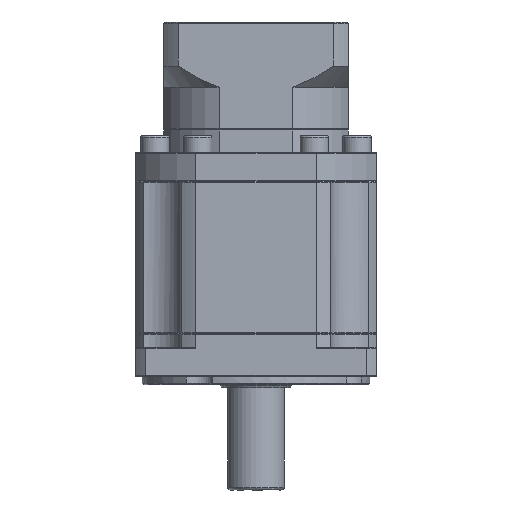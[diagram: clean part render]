
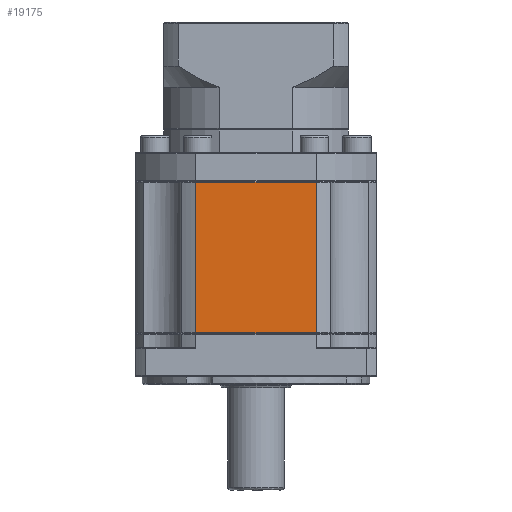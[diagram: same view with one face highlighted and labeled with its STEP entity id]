
A CAD part, front view. The second image highlights one B-rep face of the part: STEP entity #19175.
In plain terms, the highlighted planar face has unit normal (0, -1, 0).
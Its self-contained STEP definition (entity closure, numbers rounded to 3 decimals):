
#2729 = DIRECTION ( 'NONE',  ( 0., 0., -1. ) ) ;
#8693 = PLANE ( 'NONE',  #101699 ) ;
#13237 = EDGE_CURVE ( 'NONE', #20696, #75893, #125464, .T. ) ;
#14287 = VECTOR ( 'NONE', #98327, 1000. ) ;
#19175 = ADVANCED_FACE ( 'NONE', ( #42825 ), #8693, .F. ) ;
#20696 = VERTEX_POINT ( 'NONE', #47062 ) ;
#22767 = CARTESIAN_POINT ( 'NONE',  ( -83.567, 5.655, -46.318 ) ) ;
#26292 = CARTESIAN_POINT ( 'NONE',  ( -41.14, 5.655, -99.568 ) ) ;
#30490 = EDGE_LOOP ( 'NONE', ( #31125, #56909, #53427, #99165 ) ) ;
#31125 = ORIENTED_EDGE ( 'NONE', *, *, #58156, .F. ) ;
#34167 = VECTOR ( 'NONE', #43341, 1000. ) ;
#34898 = VERTEX_POINT ( 'NONE', #37187 ) ;
#37187 = CARTESIAN_POINT ( 'NONE',  ( -41.14, 5.655, -46.568 ) ) ;
#39929 = LINE ( 'NONE', #26292, #14287 ) ;
#42825 = FACE_OUTER_BOUND ( 'NONE', #30490, .T. ) ;
#43341 = DIRECTION ( 'NONE',  ( 0., 0., 1. ) ) ;
#43754 = CARTESIAN_POINT ( 'NONE',  ( -41.14, 5.655, -99.568 ) ) ;
#47062 = CARTESIAN_POINT ( 'NONE',  ( -83.567, 5.655, -99.568 ) ) ;
#49453 = CARTESIAN_POINT ( 'NONE',  ( -41.14, 5.655, -46.318 ) ) ;
#50766 = DIRECTION ( 'NONE',  ( 0., 0., 1. ) ) ;
#53427 = ORIENTED_EDGE ( 'NONE', *, *, #61749, .F. ) ;
#56909 = ORIENTED_EDGE ( 'NONE', *, *, #75925, .F. ) ;
#58156 = EDGE_CURVE ( 'NONE', #82331, #20696, #39929, .T. ) ;
#61239 = DIRECTION ( 'NONE',  ( 1., 0., 0. ) ) ;
#61749 = EDGE_CURVE ( 'NONE', #75893, #34898, #74247, .T. ) ;
#72829 = CARTESIAN_POINT ( 'NONE',  ( -62.354, 5.655, -46.568 ) ) ;
#74247 = LINE ( 'NONE', #72829, #77415 ) ;
#75893 = VERTEX_POINT ( 'NONE', #125393 ) ;
#75925 = EDGE_CURVE ( 'NONE', #34898, #82331, #84638, .T. ) ;
#76686 = VECTOR ( 'NONE', #2729, 1000. ) ;
#77415 = VECTOR ( 'NONE', #61239, 1000. ) ;
#82331 = VERTEX_POINT ( 'NONE', #43754 ) ;
#84638 = LINE ( 'NONE', #94509, #76686 ) ;
#91496 = DIRECTION ( 'NONE',  ( 0., 1., 0. ) ) ;
#94509 = CARTESIAN_POINT ( 'NONE',  ( -41.14, 5.655, -46.318 ) ) ;
#98327 = DIRECTION ( 'NONE',  ( -1., 0., 0. ) ) ;
#99165 = ORIENTED_EDGE ( 'NONE', *, *, #13237, .F. ) ;
#101699 = AXIS2_PLACEMENT_3D ( 'NONE', #49453, #91496, #50766 ) ;
#125393 = CARTESIAN_POINT ( 'NONE',  ( -83.567, 5.655, -46.568 ) ) ;
#125464 = LINE ( 'NONE', #22767, #34167 ) ;
